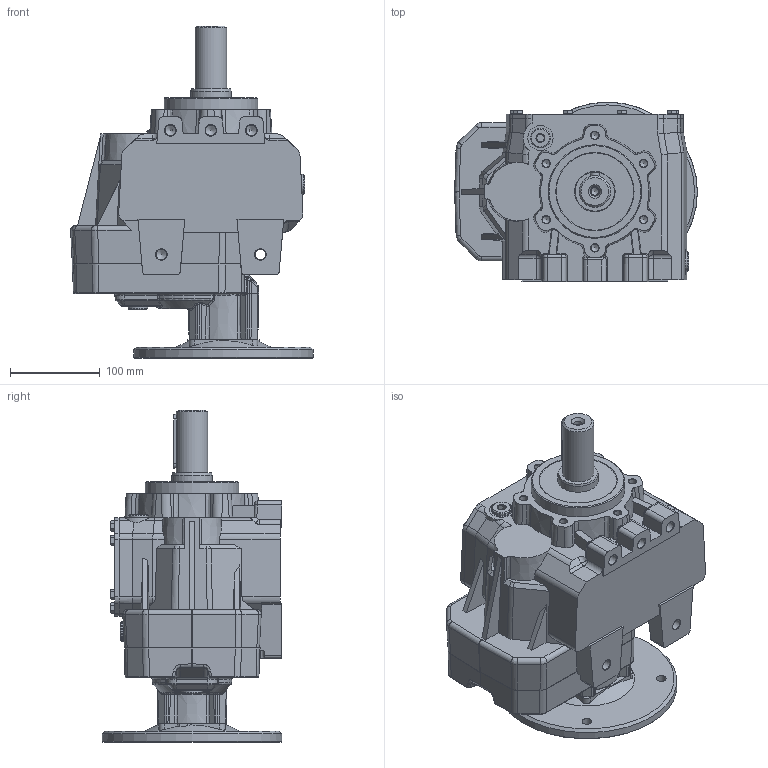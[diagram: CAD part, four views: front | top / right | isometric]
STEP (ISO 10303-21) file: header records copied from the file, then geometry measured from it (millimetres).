
FILE_DESCRIPTION( ( 'Unknown' ), '1' );
FILE_NAME( 'E:/services/configuratordownloads/customers/HYDROMEC/COASSIALI/download/BB6FC6126B2AA4AC2CADE737188F3EFC/STEP/BB6FC6126B2AA4AC2CADE737188F3EFC.3d.stp', 'Unknown', ( 'Unknown' ), ( 'Unknown' ), 'PSStep 10.1', 'Unknown', ' ' );
FILE_SCHEMA( ( 'AUTOMOTIVE_DESIGN { 1 0 10303 214 1 1 1 1 }' ) );
Length unit declared in the file: millimetre
Products named in the file (1): C818800
Bounding box: 269.9 x 199.98 x 369 mm (x, y, z)
Volume: 7281800.2 mm3; surface area: 380840.1 mm2
Topology: 1 solids, 30 shells, 1242 faces, 2973 edges, 1857 vertices
Faces by surface type: plane 582, cylinder 311, cone 148, bspline 137, torus 51, sphere 13
Full cylindrical faces by diameter (mm): 4.917 x2, 6 x8, 6.647 x4, 7 x8, 8 x8, 8.376 x8, 8.5 x4, 8.9 x8, 9.5 x8, 10.5 x1, 11 x4, 11.835 x5, 13 x8, 14.3 x4, 14.95 x4, 17 x4, 20 x1, 22 x8, 28 x4, 32.4 x1, 35 x3, 44.999 x1, 47 x2, 104 x1, 130 x1
Entity records: 52066 total; most frequent: CARTESIAN_POINT 15406, DIRECTION 5483, ORIENTED_EDGE 5258, EDGE_CURVE 2629, AXIS2_PLACEMENT_3D 2150, VERTEX_POINT 1748, EDGE_LOOP 1581, FACE_OUTER_BOUND 1386
